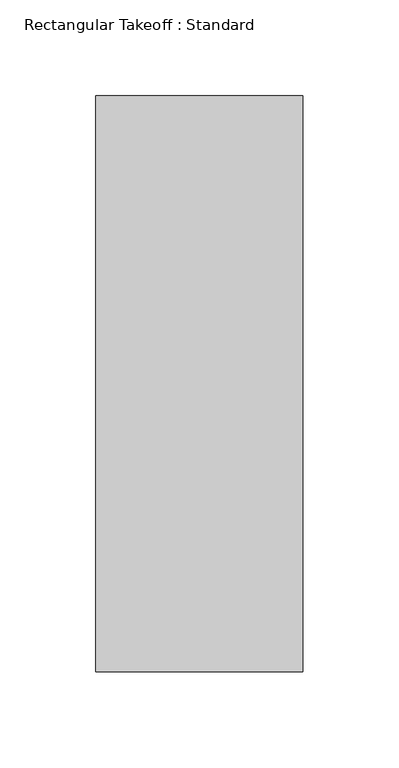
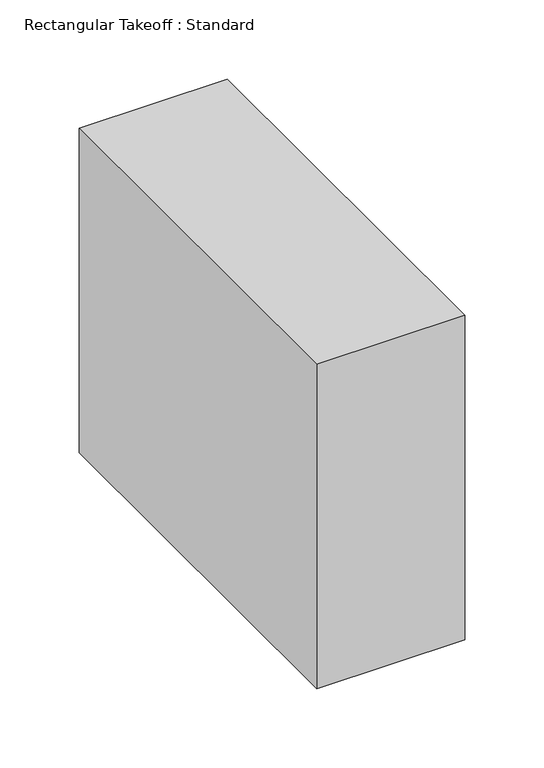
"""IFC4 building model written with IfcOpenShell, lengths in millimetres: duct fitting geometry, Rectangular Takeoff : Standard."""

from ifc_helpers import new_model, si_unit, frame, origin, place, context, project, spatial, polyline, outline, extrude, source, transform, mapped, element, save


def rectangular_takeoff_standard_6cc22b3a(model_context):
    return source(origin(), model_context, "Body", "SweptSolid", [
        extrude(outline(polyline([(-6.096, -150.0), (-6.096, 150.0), (101.6, 150.0), (101.6, -150.0), (-6.096, -150.0)])), frame((0.0, 0.0, -125.0), z_axis=(0.0, 0.0, 1.0), x_axis=(1.0, 0.0, 0.0)), (0.0, 0.0, 1.0), 250.0),
    ])


if __name__ == "__main__":
    model = new_model("IFC4")
    model_context = context("Model", 3, world=origin())
    ifc_project = project(units=[si_unit("LENGTHUNIT", "METRE", prefix="MILLI")], contexts=[model_context])
    site = spatial("IfcSite", under=ifc_project)
    building = spatial("IfcBuilding", under=site)
    placement = place(None, origin())
    rectangular_takeoff_standard_shape = rectangular_takeoff_standard_6cc22b3a(model_context)
    element("IfcDuctFitting", 1, ObjectType="Rectangular Takeoff : Standard", at=placement, inside=building, context=model_context, shape_type="MappedRepresentation", body=[
        mapped(rectangular_takeoff_standard_shape, transform((0.0, 0.0, 0.0), x_axis=(1.0, 0.0, 0.0), y_axis=(0.0, 1.0, 0.0), z_axis=(0.0, 0.0, 1.0))),
    ])
    save(model, "model.ifc")
